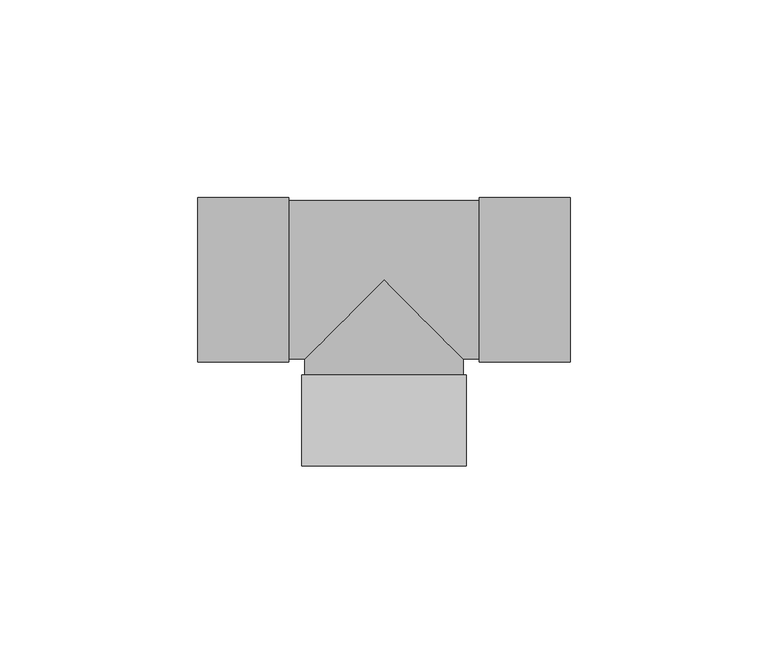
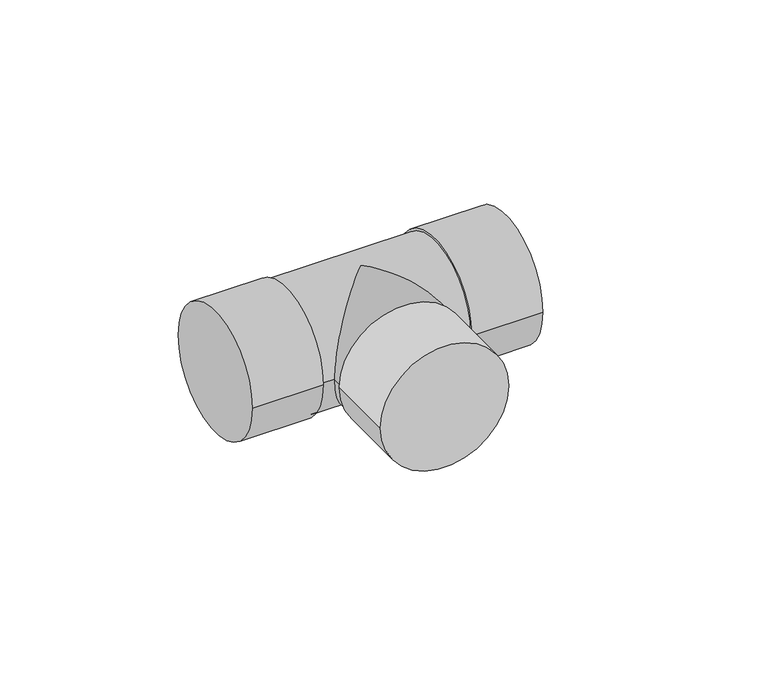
"""IFC4 building model written with IfcOpenShell, lengths in millimetres: pipe fitting geometry, Tê - Soldado - CU : Padrão."""

import ifcopenshell
import ifcopenshell.guid

model = None  # the IFC model being written
_history = None  # IfcOwnerHistory: only IFC2X3 demands one
_inside = {}  # id of a spatial element -> (the spatial element, [elements in it])
_under = {}  # id of a project, library or spatial element -> (it, [spatial elements below it])
_declared = {}  # id of a project -> (the project, [libraries it declares])
_typed = {}  # id of a type object -> (the type object, [elements of that type])
_made_of = {}  # id of a material, layer set ... -> (it, [elements and type objects made of it])


def new_model(schema):
    """Start an empty IFC model of exactly this schema.

    Asked for "IFC4X3", IfcOpenShell would pick the latest addendum, in which some entities
    have other attributes; the version numbers below select the first issue.
    IFC2X3 requires an IfcOwnerHistory on every rooted entity: one is made here for all.
    """
    global model, _history
    if schema == "IFC4X3":
        model = ifcopenshell.file(schema_version=(4, 3, 0, 0))
    else:
        model = ifcopenshell.file(schema=schema)
    _inside.clear()
    _under.clear()
    _declared.clear()
    _typed.clear()
    _made_of.clear()
    _history = None
    if model.schema == "IFC2X3":
        org = make("IfcOrganization", Name="unknown")
        user = make(
            "IfcPersonAndOrganization",
            ThePerson=make("IfcPerson", FamilyName="unknown"),
            TheOrganization=org,
        )
        app = make(
            "IfcApplication",
            ApplicationDeveloper=org,
            Version="unknown",
            ApplicationFullName="unknown",
            ApplicationIdentifier="unknown",
        )
        _history = make(
            "IfcOwnerHistory",
            OwningUser=user,
            OwningApplication=app,
            ChangeAction="ADDED",
            CreationDate=0,
        )
    return model


def make(cls, **values):
    """One entity of the class cls with the attributes given. An attribute that is None is left unset."""
    return model.create_entity(
        cls, **{name: value for name, value in values.items() if value is not None}
    )


def rooted(cls, **values):
    """An entity with a GlobalId (a new one), such as an element, a storey or a relation."""
    return make(cls, GlobalId=ifcopenshell.guid.new(), OwnerHistory=_history, **values)


def si_unit(unit_type, name, prefix=None):
    """IfcSIUnit, for example si_unit("LENGTHUNIT", "METRE", prefix="MILLI")."""
    return make("IfcSIUnit", UnitType=unit_type, Prefix=prefix, Name=name)


def assignment(units):
    """IfcUnitAssignment: the units of a project."""
    return None if units is None else make("IfcUnitAssignment", Units=units)


def point(xyz):
    """IfcCartesianPoint."""
    return None if xyz is None else make("IfcCartesianPoint", Coordinates=xyz)


def direction(xyz):
    """IfcDirection."""
    return None if xyz is None else make("IfcDirection", DirectionRatios=xyz)


def frame(location, z_axis=None, x_axis=None):
    """IfcAxis2Placement3D, a coordinate frame: its origin and axes. An axis left out is left unset."""
    return make(
        "IfcAxis2Placement3D",
        Location=point(location),
        Axis=direction(z_axis),
        RefDirection=direction(x_axis),
    )


def origin():
    """The frame at (0, 0, 0) with its axes left unset."""
    return frame((0.0, 0.0, 0.0))


def place(relative_to, where):
    """IfcLocalPlacement: puts the frame where relative to a parent placement (None: the world)."""
    return make(
        "IfcLocalPlacement", PlacementRelTo=relative_to, RelativePlacement=where
    )


def context(
    kind, dimensions, precision=None, world=None, true_north=None, identifier=None
):
    """IfcGeometricRepresentationContext, for example the 3D "Model" context."""
    return make(
        "IfcGeometricRepresentationContext",
        ContextIdentifier=identifier,
        ContextType=kind,
        CoordinateSpaceDimension=dimensions,
        Precision=precision,
        WorldCoordinateSystem=world,
        TrueNorth=true_north,
    )


def project(units=None, contexts=None):
    """IfcProject with its units and contexts."""
    return rooted(
        "IfcProject",
        Name="project",
        RepresentationContexts=contexts,
        UnitsInContext=assignment(units),
    )


def spatial(cls, under=None, at=None, **own):
    """A site, building, storey or space (cls), placed at a placement, below another one or the project."""
    s = rooted(cls, ObjectPlacement=at, **own)
    if under is not None:
        _under.setdefault(under.id(), (under, []))[1].append(s)
    return s


def circle_curve(where, radius):
    """IfcCircle in the frame where."""
    return make("IfcCircle", Position=where, Radius=radius)


def ellipse_curve(where, semi_axis1, semi_axis2):
    """IfcEllipse in the frame where."""
    return make(
        "IfcEllipse", Position=where, SemiAxis1=semi_axis1, SemiAxis2=semi_axis2
    )


def shape(context_of_items, identifier, shape_type, items):
    """IfcShapeRepresentation: the items that make up one representation, for example the "Body"."""
    return make(
        "IfcShapeRepresentation",
        ContextOfItems=context_of_items,
        RepresentationIdentifier=identifier,
        RepresentationType=shape_type,
        Items=items,
    )


def source(mapping_origin, context_of_items, identifier, shape_type, items):
    """IfcRepresentationMap: a shape defined once, which mapped items show again and again."""
    return make(
        "IfcRepresentationMap",
        MappingOrigin=mapping_origin,
        MappedRepresentation=shape(context_of_items, identifier, shape_type, items),
    )


def transform(
    local_origin,
    x_axis=None,
    y_axis=None,
    z_axis=None,
    scale=None,
    scale2=None,
    scale3=None,
    uniform=True,
):
    """IfcCartesianTransformationOperator3D, or its non-uniform kind. x_axis, y_axis, z_axis: its Axis1, 2, 3."""
    if uniform:
        return make(
            "IfcCartesianTransformationOperator3D",
            Axis1=direction(x_axis),
            Axis2=direction(y_axis),
            LocalOrigin=point(local_origin),
            Scale=scale,
            Axis3=direction(z_axis),
        )
    return make(
        "IfcCartesianTransformationOperator3DnonUniform",
        Axis1=direction(x_axis),
        Axis2=direction(y_axis),
        LocalOrigin=point(local_origin),
        Scale=scale,
        Axis3=direction(z_axis),
        Scale2=scale2,
        Scale3=scale3,
    )


def mapped(mapping_source, mapping_target):
    """IfcMappedItem: shows the shape of a source again, moved by a transform."""
    return make(
        "IfcMappedItem", MappingSource=mapping_source, MappingTarget=mapping_target
    )


def made_of(thing, what):
    """Note that an element or type object is made of a material, layer set ...; save() writes the relation."""
    if what is not None:
        _made_of.setdefault(what.id(), (what, []))[1].append(thing)
    return thing


def element(
    cls,
    number,
    at=None,
    inside=None,
    cuts=None,
    type_object=None,
    material=None,
    context=None,
    identifier="Body",
    shape_type=None,
    held_by="IfcProductDefinitionShape",
    body=None,
    shapes=None,
    **own,
):
    """One element of the class cls, such as IfcWall. Its Tag is "e" and its number.

    at: its placement. inside: the storey or other place that contains it. cuts: it is an
    opening in that element (IfcRelVoidsElement). A single representation is given by context,
    identifier, shape_type and body (its items); several are given by shapes. held_by: the class
    of the entity that holds the representations. save() writes the other relations.
    """
    e = rooted(cls, Tag="e%d" % number, ObjectPlacement=at, **own)
    if body is not None:
        shapes = [shape(context, identifier, shape_type, body)]
    if shapes is not None:
        e.Representation = make(held_by, Representations=shapes)
    if inside is not None:
        _inside.setdefault(inside.id(), (inside, []))[1].append(e)
    if cuts is not None:
        rooted(
            "IfcRelVoidsElement", RelatingBuildingElement=cuts, RelatedOpeningElement=e
        )
    if type_object is not None:
        _typed.setdefault(type_object.id(), (type_object, []))[1].append(e)
    return made_of(e, material)


def aggregate(whole, parts):
    """IfcRelAggregates: a whole, such as a stair, and the parts it consists of."""
    return rooted("IfcRelAggregates", RelatingObject=whole, RelatedObjects=parts)


def save(model, path):
    """Write the relations noted so far, then the file.

    IfcRelAggregates (storeys below a building ...), IfcRelContainedInSpatialStructure (elements
    in a storey), IfcRelDefinesByType, IfcRelAssociatesMaterial and IfcRelDeclares: one each for
    every whole, place, type object, material and project.
    """
    for whole, parts in _under.values():
        aggregate(whole, parts)
    for where, things in _inside.values():
        rooted(
            "IfcRelContainedInSpatialStructure",
            RelatedElements=things,
            RelatingStructure=where,
        )
    for kind, things in _typed.values():
        rooted("IfcRelDefinesByType", RelatedObjects=things, RelatingType=kind)
    for what, things in _made_of.values():
        rooted("IfcRelAssociatesMaterial", RelatedObjects=things, RelatingMaterial=what)
    for by, libraries in _declared.values():
        rooted("IfcRelDeclares", RelatingContext=by, RelatedDefinitions=libraries)
    model.write(path)


def plane_surface(at):
    """IfcPlane: the flat surface through the origin of the frame at, square to its z axis."""
    return make("IfcPlane", Position=at)


def cylinder_surface(at, radius):
    """IfcCylindricalSurface: all points at the distance radius from the z axis of the frame at."""
    return make("IfcCylindricalSurface", Position=at, Radius=radius)


def advanced_brep(points, edges, surfaces, faces):
    """IfcAdvancedBrep: a solid bounded by faces that lie on surfaces and meet in shared edges.

    An edge is (start, end): straight between two places in points (the first is 0);
    or (start, end, curve); or (start, end, curve, False) where it runs against its curve.
    A face is (place in surfaces, loops), or (place, loops, False) where it looks against
    its surface's normal. A loop lists edges by number (the first is 1), with a minus sign
    where the edge is run from its end to its start. The first loop is the outer one.
    """
    corners = [point(p) for p in points]
    vertices = [make("IfcVertexPoint", VertexGeometry=c) for c in corners]
    made = []
    for start, end, *more in edges:
        made.append(
            make(
                "IfcEdgeCurve",
                EdgeStart=vertices[start],
                EdgeEnd=vertices[end],
                EdgeGeometry=more[0] if more else make("IfcPolyline", Points=[corners[start], corners[end]]),
                SameSense=more[1] if len(more) > 1 else True,
            )
        )
    hull = []
    for where, loops, *sense in faces:
        bounds = []
        for j, loop in enumerate(loops):
            ring = [make("IfcOrientedEdge", EdgeElement=made[abs(k) - 1], Orientation=k > 0) for k in loop]
            bounds.append(
                make(
                    "IfcFaceOuterBound" if j == 0 else "IfcFaceBound",
                    Bound=make("IfcEdgeLoop", EdgeList=ring),
                    Orientation=True,
                )
            )
        hull.append(make("IfcAdvancedFace", Bounds=bounds, FaceSurface=surfaces[where], SameSense=sense[0] if sense else True))
    return make("IfcAdvancedBrep", Outer=make("IfcClosedShell", CfsFaces=hull))


def pipe_fitting_47422d38(model_context):
    return source(origin(), model_context, "Body", "AdvancedBrep", [
        advanced_brep(
        [(20.77, -47.13, 0.0), (-20.77, -47.13, 0.0), (20.77, -24.12, 0.0), (-20.77, -24.12, 0.0), (20.0, -24.12, 0.0), (-20.0, -24.12, 0.0), (-47.06, -20.77, 0.0), (-47.06, 20.77, 0.0), (-24.05, -20.77, 0.0), (-24.05, 20.77, 0.0), (-24.05, -20.0, 0.0), (-24.05, 20.0, 0.0), (24.05, 20.0, 0.0), (-20.0, -20.0, 0.0), (0.0, 0.0, 20.0), (20.0, -20.0, 0.0), (24.05, -20.0, 0.0), (0.0, 0.0, -20.0), (24.05, -20.77, 0.0), (24.05, 20.77, 0.0), (47.06, -20.77, 0.0), (47.06, 20.77, 0.0)],
        [
            (0, 1, circle_curve(frame((0.0, -47.13, 0.0), z_axis=(0.0, -1.0, 0.0), x_axis=(-1.0, 0.0, 0.0)), 20.77)),
            (1, 0, circle_curve(frame((0.0, -47.13, 0.0), z_axis=(0.0, -1.0, 0.0), x_axis=(-1.0, 0.0, 0.0)), 20.77)),
            (2, 3, circle_curve(frame((0.0, -24.12, 0.0), z_axis=(0.0, 1.0, 0.0), x_axis=(-1.0, 0.0, 0.0)), 20.77)),
            (3, 2, circle_curve(frame((0.0, -24.12, 0.0), z_axis=(0.0, 1.0, 0.0), x_axis=(-1.0, 0.0, 0.0)), 20.77)),
            (4, 5, circle_curve(frame((0.0, -24.12, 0.0), z_axis=(0.0, -1.0, 0.0), x_axis=(1.0, 0.0, 0.0)), 20.0)),
            (5, 4, circle_curve(frame((0.0, -24.12, 0.0), z_axis=(0.0, -1.0, 0.0), x_axis=(1.0, 0.0, 0.0)), 20.0)),
            (0, 2),
            (3, 1),
            (6, 7, circle_curve(frame((-47.06, 0.0, 0.0), z_axis=(-1.0, 0.0, 0.0), x_axis=(0.0, 1.0, 0.0)), 20.77)),
            (7, 6, circle_curve(frame((-47.06, 0.0, 0.0), z_axis=(-1.0, 0.0, 0.0), x_axis=(0.0, 1.0, 0.0)), 20.77)),
            (8, 9, circle_curve(frame((-24.05, 0.0, 0.0), z_axis=(1.0, 0.0, 0.0), x_axis=(0.0, 1.0, 0.0)), 20.77)),
            (9, 8, circle_curve(frame((-24.05, 0.0, 0.0), z_axis=(1.0, 0.0, 0.0), x_axis=(0.0, 1.0, 0.0)), 20.77)),
            (10, 11, circle_curve(frame((-24.05, 0.0, 0.0), z_axis=(-1.0, 0.0, 0.0), x_axis=(0.0, 1.0, 0.0)), 20.0)),
            (11, 10, circle_curve(frame((-24.05, 0.0, 0.0), z_axis=(-1.0, 0.0, 0.0), x_axis=(0.0, 1.0, 0.0)), 20.0)),
            (6, 8),
            (9, 7),
            (12, 11),
            (10, 13),
            (13, 14, ellipse_curve(frame((0.0, 0.0, 0.0), z_axis=(-0.7071067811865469, 0.7071067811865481, 0.0), x_axis=(-0.707106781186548, -0.7071067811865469, 0.0)), 28.2842712, 20.0)),
            (14, 15, ellipse_curve(frame((0.0, 0.0, 0.0), z_axis=(0.7071067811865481, 0.7071067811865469, 0.0), x_axis=(-0.707106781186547, 0.7071067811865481, 0.0)), 28.2842712, 20.0)),
            (15, 16),
            (16, 12, circle_curve(frame((24.05, 0.0, 0.0), z_axis=(-1.0, 0.0, 0.0), x_axis=(0.0, 1.0, 0.0)), 20.0)),
            (12, 16, circle_curve(frame((24.05, 0.0, 0.0), z_axis=(-1.0, 0.0, 0.0), x_axis=(0.0, 1.0, 0.0)), 20.0)),
            (15, 17, ellipse_curve(frame((0.0, 0.0, 0.0), z_axis=(0.7071067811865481, 0.7071067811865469, 0.0), x_axis=(-0.707106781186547, 0.7071067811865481, 0.0)), 28.2842712, 20.0)),
            (17, 13, ellipse_curve(frame((0.0, 0.0, 0.0), z_axis=(-0.7071067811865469, 0.7071067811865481, 0.0), x_axis=(-0.707106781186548, -0.7071067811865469, 0.0)), 28.2842712, 20.0)),
            (18, 19, circle_curve(frame((24.05, 0.0, 0.0), z_axis=(-1.0, 0.0, 0.0), x_axis=(0.0, 1.0, 0.0)), 20.77)),
            (19, 18, circle_curve(frame((24.05, 0.0, 0.0), z_axis=(-1.0, 0.0, 0.0), x_axis=(0.0, 1.0, 0.0)), 20.77)),
            (20, 21, circle_curve(frame((47.06, 0.0, 0.0), z_axis=(1.0, 0.0, 0.0), x_axis=(0.0, 1.0, 0.0)), 20.77)),
            (21, 20, circle_curve(frame((47.06, 0.0, 0.0), z_axis=(1.0, 0.0, 0.0), x_axis=(0.0, 1.0, 0.0)), 20.77)),
            (18, 20),
            (21, 19),
            (4, 15),
            (13, 5),
        ],
        [
            plane_surface(frame((0.0, -47.13, 0.0), z_axis=(0.0, -1.0, 0.0), x_axis=(0.0, 0.0, 1.0))),
            plane_surface(frame((0.0, -24.12, 0.0), z_axis=(0.0, 1.0, 0.0), x_axis=(0.0, 0.0, 1.0))),
            cylinder_surface(frame((0.0, -47.13, 0.0), z_axis=(0.0, -1.0, 0.0), x_axis=(-1.0, 0.0, 0.0)), 20.77),
            plane_surface(frame((-47.06, 0.0, 0.0), z_axis=(-1.0, 0.0, 0.0), x_axis=(0.0, 0.0, 1.0))),
            plane_surface(frame((-24.05, 0.0, 0.0), z_axis=(1.0, 0.0, 0.0), x_axis=(0.0, 0.0, 1.0))),
            cylinder_surface(frame((-47.06, 0.0, 0.0), z_axis=(-1.0, 0.0, 0.0), x_axis=(0.0, 1.0, 0.0)), 20.77),
            cylinder_surface(frame((-24.05, 0.0, 0.0), z_axis=(-1.0, 0.0, 0.0), x_axis=(0.0, 1.0, 0.0)), 20.0),
            plane_surface(frame((24.05, 0.0, 0.0), z_axis=(-1.0, 0.0, 0.0), x_axis=(0.0, 0.0, 1.0))),
            plane_surface(frame((47.06, 0.0, 0.0), z_axis=(1.0, 0.0, 0.0), x_axis=(0.0, 0.0, 1.0))),
            cylinder_surface(frame((24.05, 0.0, 0.0), z_axis=(-1.0, 0.0, 0.0), x_axis=(0.0, 1.0, 0.0)), 20.77),
            cylinder_surface(frame((0.0, 0.0, 0.0), z_axis=(0.0, 1.0, 0.0), x_axis=(1.0, 0.0, 0.0)), 20.0),
        ],
        [
            (0, [[1, 2]]),
            (1, [[3, 4], [5, 6]]),
            (2, [[-1, 7, -4, 8]]),
            (2, [[-2, -8, -3, -7]]),
            (3, [[9, 10]]),
            (4, [[11, 12], [13, 14]]),
            (5, [[-9, 15, -12, 16]]),
            (5, [[-10, -16, -11, -15]]),
            (6, [[17, -13, 18, 19, 20, 21, 22]]),
            (6, [[-17, 23, -21, 24, 25, -18, -14]]),
            (7, [[26, 27], [-22, -23]]),
            (8, [[28, 29]]),
            (9, [[-26, 30, -29, 31]]),
            (9, [[-27, -31, -28, -30]]),
            (10, [[32, -20, -19, 33, -5]]),
            (10, [[-32, -6, -33, -25, -24]]),
        ],
    ),
    ])


if __name__ == "__main__":
    model = new_model("IFC4")
    model_context = context("Model", 3, world=origin())
    ifc_project = project(units=[si_unit("LENGTHUNIT", "METRE", prefix="MILLI")], contexts=[model_context])
    site = spatial("IfcSite", under=ifc_project)
    building = spatial("IfcBuilding", under=site)
    placement = place(None, origin())
    pipe_fitting_shape = pipe_fitting_47422d38(model_context)
    element("IfcPipeFitting", 1, ObjectType="Tê - Soldado - CU : Padrão", at=placement, inside=building, context=model_context, shape_type="MappedRepresentation", body=[
        mapped(pipe_fitting_shape, transform((0.0, 0.0, 0.0), x_axis=(1.0, 0.0, 0.0), y_axis=(0.0, 1.0, 0.0), z_axis=(0.0, 0.0, 1.0))),
    ])
    save(model, "model.ifc")
